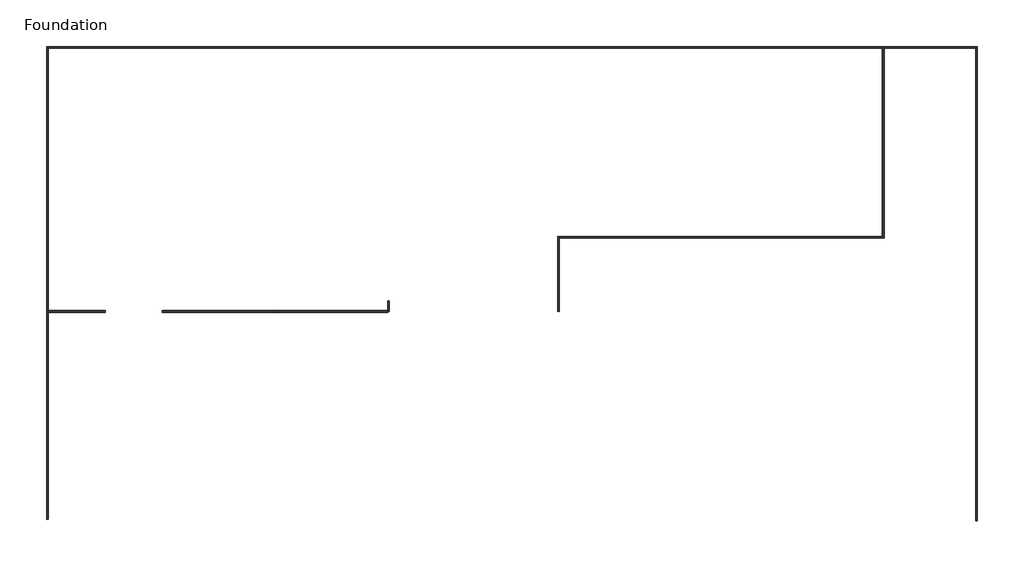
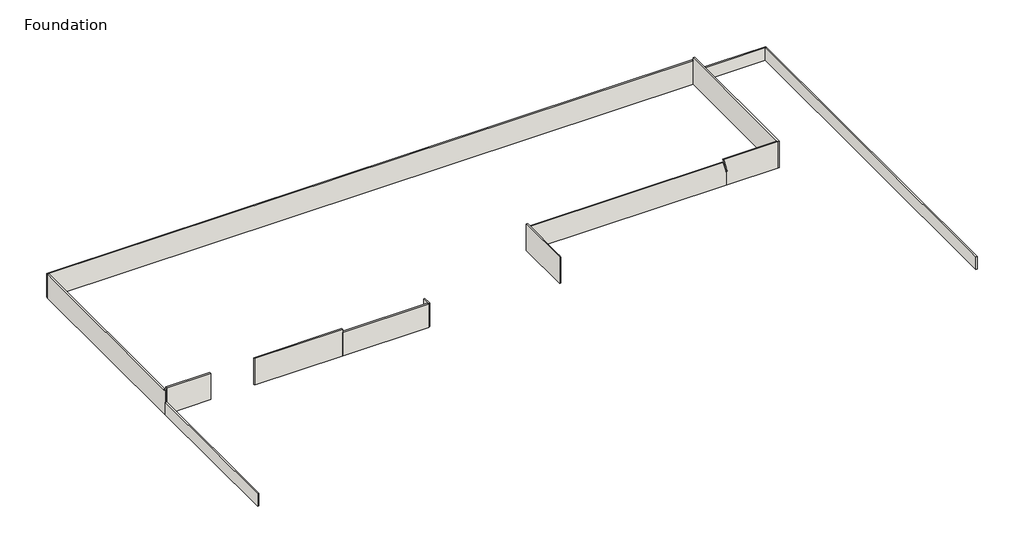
# One storey, incomplete: 13 walls.
"""IFC4 building model written with IfcOpenShell, lengths in millimetres."""

import ifcopenshell
import ifcopenshell.guid

model = None  # the IFC model being written
_history = None  # IfcOwnerHistory: only IFC2X3 demands one
_inside = {}  # id of a spatial element -> (the spatial element, [elements in it])
_under = {}  # id of a project, library or spatial element -> (it, [spatial elements below it])
_declared = {}  # id of a project -> (the project, [libraries it declares])
_typed = {}  # id of a type object -> (the type object, [elements of that type])
_made_of = {}  # id of a material, layer set ... -> (it, [elements and type objects made of it])


def new_model(schema):
    """Start an empty IFC model of exactly this schema.

    Asked for "IFC4X3", IfcOpenShell would pick the latest addendum, in which some entities
    have other attributes; the version numbers below select the first issue.
    IFC2X3 requires an IfcOwnerHistory on every rooted entity: one is made here for all.
    """
    global model, _history
    if schema == "IFC4X3":
        model = ifcopenshell.file(schema_version=(4, 3, 0, 0))
    else:
        model = ifcopenshell.file(schema=schema)
    _inside.clear()
    _under.clear()
    _declared.clear()
    _typed.clear()
    _made_of.clear()
    _history = None
    if model.schema == "IFC2X3":
        org = make("IfcOrganization", Name="unknown")
        user = make(
            "IfcPersonAndOrganization",
            ThePerson=make("IfcPerson", FamilyName="unknown"),
            TheOrganization=org,
        )
        app = make(
            "IfcApplication",
            ApplicationDeveloper=org,
            Version="unknown",
            ApplicationFullName="unknown",
            ApplicationIdentifier="unknown",
        )
        _history = make(
            "IfcOwnerHistory",
            OwningUser=user,
            OwningApplication=app,
            ChangeAction="ADDED",
            CreationDate=0,
        )
    return model


def make(cls, **values):
    """One entity of the class cls with the attributes given. An attribute that is None is left unset."""
    return model.create_entity(
        cls, **{name: value for name, value in values.items() if value is not None}
    )


def rooted(cls, **values):
    """An entity with a GlobalId (a new one), such as an element, a storey or a relation."""
    return make(cls, GlobalId=ifcopenshell.guid.new(), OwnerHistory=_history, **values)


def si_unit(unit_type, name, prefix=None):
    """IfcSIUnit, for example si_unit("LENGTHUNIT", "METRE", prefix="MILLI")."""
    return make("IfcSIUnit", UnitType=unit_type, Prefix=prefix, Name=name)


def assignment(units):
    """IfcUnitAssignment: the units of a project."""
    return None if units is None else make("IfcUnitAssignment", Units=units)


def point(xyz):
    """IfcCartesianPoint."""
    return None if xyz is None else make("IfcCartesianPoint", Coordinates=xyz)


def direction(xyz):
    """IfcDirection."""
    return None if xyz is None else make("IfcDirection", DirectionRatios=xyz)


def frame(location, z_axis=None, x_axis=None):
    """IfcAxis2Placement3D, a coordinate frame: its origin and axes. An axis left out is left unset."""
    return make(
        "IfcAxis2Placement3D",
        Location=point(location),
        Axis=direction(z_axis),
        RefDirection=direction(x_axis),
    )


def frame_2d(location, x_axis=None):
    """IfcAxis2Placement2D, a coordinate frame in the plane: its origin and x axis."""
    return make(
        "IfcAxis2Placement2D", Location=point(location), RefDirection=direction(x_axis)
    )


def origin():
    """The frame at (0, 0, 0) with its axes left unset."""
    return frame((0.0, 0.0, 0.0))


def place(relative_to, where):
    """IfcLocalPlacement: puts the frame where relative to a parent placement (None: the world)."""
    return make(
        "IfcLocalPlacement", PlacementRelTo=relative_to, RelativePlacement=where
    )


def context(
    kind, dimensions, precision=None, world=None, true_north=None, identifier=None
):
    """IfcGeometricRepresentationContext, for example the 3D "Model" context."""
    return make(
        "IfcGeometricRepresentationContext",
        ContextIdentifier=identifier,
        ContextType=kind,
        CoordinateSpaceDimension=dimensions,
        Precision=precision,
        WorldCoordinateSystem=world,
        TrueNorth=true_north,
    )


def project(units=None, contexts=None):
    """IfcProject with its units and contexts."""
    return rooted(
        "IfcProject",
        Name="project",
        RepresentationContexts=contexts,
        UnitsInContext=assignment(units),
    )


def spatial(cls, under=None, at=None, **own):
    """A site, building, storey or space (cls), placed at a placement, below another one or the project."""
    s = rooted(cls, ObjectPlacement=at, **own)
    if under is not None:
        _under.setdefault(under.id(), (under, []))[1].append(s)
    return s


def polyline(points):
    """IfcPolyline through the points."""
    return make("IfcPolyline", Points=[point(p) for p in points])


def circle_curve(where, radius):
    """IfcCircle in the frame where."""
    return make("IfcCircle", Position=where, Radius=radius)


def trimmed(basis, trim1, trim2, sense, master):
    """IfcTrimmedCurve: the piece of a basis curve between two trims."""
    return make(
        "IfcTrimmedCurve",
        BasisCurve=basis,
        Trim1=trim1,
        Trim2=trim2,
        SenseAgreement=sense,
        MasterRepresentation=master,
    )


def segment(curve, same_sense, transition):
    """IfcCompositeCurveSegment."""
    return make(
        "IfcCompositeCurveSegment",
        Transition=transition,
        SameSense=same_sense,
        ParentCurve=curve,
    )


def composite_curve(segments, self_intersect=None):
    """IfcCompositeCurve: segments joined end to end."""
    return make("IfcCompositeCurve", Segments=segments, SelfIntersect=self_intersect)


def outline(outer, holes=None, kind="AREA"):
    """IfcArbitraryClosedProfileDef: a profile drawn as a closed curve; with holes, ...WithVoids."""
    if holes is None:
        return make("IfcArbitraryClosedProfileDef", ProfileType=kind, OuterCurve=outer)
    return make(
        "IfcArbitraryProfileDefWithVoids",
        ProfileType=kind,
        OuterCurve=outer,
        InnerCurves=holes,
    )


def extrude(swept, where, along, depth):
    """IfcExtrudedAreaSolid: the profile swept, set in the frame where, extruded along a direction by depth."""
    return make(
        "IfcExtrudedAreaSolid",
        SweptArea=swept,
        Position=where,
        ExtrudedDirection=direction(along),
        Depth=depth,
    )


def faces_of(points, faces, orient=None, outer=None):
    """IfcFace entities. A face is a list of loops; a loop is a list of indices into points, from 0.

    orient and outer hold one flag for each loop. By default every Orientation is true, the
    first loop of a face is its IfcFaceOuterBound and the others are IfcFaceBound.
    """
    made = []
    for i, loops in enumerate(faces):
        bounds = []
        for j, loop in enumerate(loops):
            is_outer = j == 0 if outer is None else outer[i][j]
            bounds.append(
                make(
                    "IfcFaceOuterBound" if is_outer else "IfcFaceBound",
                    Bound=make("IfcPolyLoop", Polygon=[points[k] for k in loop]),
                    Orientation=True if orient is None else orient[i][j],
                )
            )
        made.append(make("IfcFace", Bounds=bounds))
    return made


def faceted_brep(points, faces, orient=None, outer=None, voids=None):
    """IfcFacetedBrep: a solid bounded by flat faces; with voids (closed shells), ...WithVoids."""
    shared = [point(p) for p in points]
    hull = make("IfcClosedShell", CfsFaces=faces_of(shared, faces, orient, outer))
    if voids is None:
        return make("IfcFacetedBrep", Outer=hull)
    return make(
        "IfcFacetedBrepWithVoids",
        Outer=hull,
        Voids=[
            make(cls, CfsFaces=faces_of(shared, fs, o, b)) for cls, fs, o, b in voids
        ],
    )


def shape(context_of_items, identifier, shape_type, items):
    """IfcShapeRepresentation: the items that make up one representation, for example the "Body"."""
    return make(
        "IfcShapeRepresentation",
        ContextOfItems=context_of_items,
        RepresentationIdentifier=identifier,
        RepresentationType=shape_type,
        Items=items,
    )


def made_of(thing, what):
    """Note that an element or type object is made of a material, layer set ...; save() writes the relation."""
    if what is not None:
        _made_of.setdefault(what.id(), (what, []))[1].append(thing)
    return thing


def element(
    cls,
    number,
    at=None,
    inside=None,
    cuts=None,
    type_object=None,
    material=None,
    context=None,
    identifier="Body",
    shape_type=None,
    held_by="IfcProductDefinitionShape",
    body=None,
    shapes=None,
    **own,
):
    """One element of the class cls, such as IfcWall. Its Tag is "e" and its number.

    at: its placement. inside: the storey or other place that contains it. cuts: it is an
    opening in that element (IfcRelVoidsElement). A single representation is given by context,
    identifier, shape_type and body (its items); several are given by shapes. held_by: the class
    of the entity that holds the representations. save() writes the other relations.
    """
    e = rooted(cls, Tag="e%d" % number, ObjectPlacement=at, **own)
    if body is not None:
        shapes = [shape(context, identifier, shape_type, body)]
    if shapes is not None:
        e.Representation = make(held_by, Representations=shapes)
    if inside is not None:
        _inside.setdefault(inside.id(), (inside, []))[1].append(e)
    if cuts is not None:
        rooted(
            "IfcRelVoidsElement", RelatingBuildingElement=cuts, RelatedOpeningElement=e
        )
    if type_object is not None:
        _typed.setdefault(type_object.id(), (type_object, []))[1].append(e)
    return made_of(e, material)


def aggregate(whole, parts):
    """IfcRelAggregates: a whole, such as a stair, and the parts it consists of."""
    return rooted("IfcRelAggregates", RelatingObject=whole, RelatedObjects=parts)


def save(model, path):
    """Write the relations noted so far, then the file.

    IfcRelAggregates (storeys below a building ...), IfcRelContainedInSpatialStructure (elements
    in a storey), IfcRelDefinesByType, IfcRelAssociatesMaterial and IfcRelDeclares: one each for
    every whole, place, type object, material and project.
    """
    for whole, parts in _under.values():
        aggregate(whole, parts)
    for where, things in _inside.values():
        rooted(
            "IfcRelContainedInSpatialStructure",
            RelatedElements=things,
            RelatingStructure=where,
        )
    for kind, things in _typed.values():
        rooted("IfcRelDefinesByType", RelatedObjects=things, RelatingType=kind)
    for what, things in _made_of.values():
        rooted("IfcRelAssociatesMaterial", RelatedObjects=things, RelatingMaterial=what)
    for by, libraries in _declared.values():
        rooted("IfcRelDeclares", RelatingContext=by, RelatedDefinitions=libraries)
    model.write(path)


model = new_model("IFC4")

# Units and contexts
model_context = context("Model", 3, world=origin())
ifc_project = project(units=[si_unit("LENGTHUNIT", "METRE", prefix="MILLI")], contexts=[model_context])

# Site, building, storey
site = spatial("IfcSite", under=ifc_project)
building = spatial("IfcBuilding", under=site)
storey = spatial("IfcBuildingStorey", under=building, Name="Foundation", Elevation=-5638.8)

# Walls
placement = place(None, origin())
element("IfcWall", 1, ObjectType="Generic - 12\"", at=placement, inside=storey, context=model_context, shape_type="Brep", body=[
    faceted_brep([(-62171.2307976, 61556.111889, -5638.8), (-61866.4307976, 61556.111889, -5638.8), (71940.7692024, 61556.111889, -5638.8), (72245.5692024, 61556.111889, -5638.8), (72245.5692024, 61556.111889, -2895.6), (72245.5692024, 61556.111889, -457.2), (71940.7692024, 61556.111889, -457.2), (-61866.4307976, 61556.111889, -457.2), (-62171.2307976, 61556.111889, -457.2), (-62171.2307976, 61860.911889, -5638.8), (-62171.2307976, 61860.911889, -457.2), (71940.7692024, 61860.911889, -457.2), (72245.5692024, 61860.911889, -457.2), (72245.5692024, 61860.911889, -2895.6), (72245.5692024, 61860.911889, -5638.8)], [[[0, 1, 2, 3, 4, 5, 6, 7, 8]], [[9, 10, 11, 12, 13, 14]], [[3, 2, 1, 0, 9, 14]], [[5, 4, 3, 14, 13, 12]], [[0, 8, 10, 9]], [[6, 5, 12, 11]], [[8, 7, 6, 11, 10]]]),
])
element("IfcWall", 2, ObjectType="Generic - 12\"", at=placement, inside=storey, context=model_context, shape_type="Brep", body=[
    faceted_brep([(71940.7692024, 61556.111889, -5638.8), (71940.7692024, 31380.911889, -5638.8), (71940.7692024, 31076.111889, -5638.8), (71940.7692024, 31076.111889, 152.4), (71940.7692024, 31380.911889, 152.4), (71940.7692024, 61556.111889, 152.4), (72245.5692024, 61556.111889, -5638.8), (72245.5692024, 61556.111889, -457.2), (72245.5692024, 61556.111889, 152.4), (72245.5692024, 31076.111889, 152.4), (72245.5692024, 31076.111889, -5638.8)], [[[0, 1, 2, 3, 4, 5]], [[6, 7, 8, 9, 10]], [[2, 1, 0, 6, 10]], [[5, 4, 3, 9, 8]], [[3, 2, 10, 9]], [[0, 5, 8, 7, 6]]]),
])
element("IfcWall", 3, ObjectType="Generic - 12\"", at=placement, inside=storey, context=model_context, shape_type="Brep", body=[
    faceted_brep([(-62171.2307976, 61556.111889, -5638.8), (-62171.2307976, 19188.911889, -5638.8), (-62171.2307976, 19188.911889, -2895.6), (-62171.2307976, 19188.911889, -152.4), (-62171.2307976, 19493.711889, -152.4), (-62171.2307976, 19493.711889, -457.2), (-62171.2307976, 61556.111889, -457.2), (-61866.4307976, 61556.111889, -5638.8), (-61866.4307976, 61556.111889, -457.2), (-61866.4307976, 19493.711889, -457.2), (-61866.4307976, 19493.711889, -152.4), (-61866.4307976, 19188.911889, -152.4), (-61866.4307976, 19188.911889, -2895.6), (-61866.4307976, 19188.911889, -5638.8), (-61866.4307976, 19493.711889, -5638.8)], [[[0, 1, 2, 3, 4, 5, 6]], [[7, 8, 9, 10, 11, 12, 13, 14]], [[1, 0, 7, 14, 13]], [[3, 2, 1, 13, 12, 11]], [[0, 6, 8, 7]], [[4, 3, 11, 10]], [[4, 10, 9, 5]], [[6, 5, 9, 8]]]),
])
element("IfcWall", 4, ObjectType="Generic - 12\"", at=placement, inside=storey, context=model_context, shape_type="Brep", body=[
    faceted_brep([(-52722.4307976, 19493.711889, -5638.8), (-61866.4307976, 19493.711889, -5638.8), (-61866.4307976, 19493.711889, -457.2), (-61866.4307976, 19493.711889, -152.4), (-61866.4307976, 19493.711889, 152.4), (-53027.2307976, 19493.711889, 152.4), (-52722.4307976, 19493.711889, 152.4), (-52722.4307976, 19493.711889, -152.4), (-52722.4307976, 19188.911889, -5638.8), (-52722.4307976, 19188.911889, -2590.8), (-52722.4307976, 19188.911889, 152.4), (-61866.4307976, 19188.911889, 152.4), (-61866.4307976, 19188.911889, -152.4), (-61866.4307976, 19188.911889, -5638.8)], [[[0, 1, 2, 3, 4, 5, 6, 7]], [[8, 9, 10, 11, 12, 13]], [[1, 0, 8, 13]], [[6, 5, 4, 11, 10]], [[0, 7, 6, 10, 9, 8]], [[4, 3, 2, 1, 13, 12, 11]]]),
])
element("IfcWall", 5, ObjectType="Generic - 12\"", at=placement, inside=storey, context=model_context, shape_type="Brep", body=[
    faceted_brep([(-43578.4307976, 19188.911889, -5638.8), (-25290.4307976, 19188.911889, -5638.8), (-25290.4307976, 19188.911889, -2590.8), (-25290.4307976, 19188.911889, -457.2), (-25290.4307976, 19188.911889, 152.4), (-25595.2307976, 19188.911889, 152.4), (-43578.4307976, 19188.911889, 152.4), (-43578.4307976, 19493.711889, -5638.8), (-43578.4307976, 19493.711889, -2590.8), (-43578.4307976, 19493.711889, 152.4), (-25290.4307976, 19493.711889, 152.4), (-25290.4307976, 19493.711889, -457.2), (-25290.4307976, 19493.711889, -5638.8)], [[[0, 1, 2, 3, 4, 5, 6]], [[7, 8, 9, 10, 11, 12]], [[1, 0, 7, 12]], [[6, 5, 4, 10, 9]], [[4, 3, 2, 1, 12, 11, 10]], [[0, 6, 9, 8, 7]]]),
])
element("IfcWall", 6, ObjectType="Generic - 12\"", at=placement, inside=storey, context=model_context, shape_type="SweptSolid", body=[
    extrude(outline(polyline([(-61866.4307976, 19188.911889), (-61866.4307976, -14034.288111), (-62171.2307976, -14034.288111), (-62171.2307976, 19188.911889), (-61866.4307976, 19188.911889)])), frame((0.0, 0.0, -5638.8), z_axis=(0.0, 0.0, 1.0), x_axis=(1.0, 0.0, 0.0)), (0.0, 0.0, 1.0), 2743.2),
])
element("IfcWall", 7, ObjectType="Generic - 12\"", at=placement, inside=storey, context=model_context, shape_type="Brep", body=[
    faceted_brep([(87180.7692024, -14339.088111, -5638.8), (87180.7692024, 61556.111889, -5638.8), (87180.7692024, 61556.111889, -2895.6), (87180.7692024, -14339.088111, -2895.6), (86875.9692024, -14339.088111, -5638.8), (86875.9692024, -14339.088111, -2895.6), (86875.9692024, -14034.288111, -2895.6), (86875.9692024, 61556.111889, -2895.6), (86875.9692024, 61556.111889, -5638.8), (86875.9692024, -14034.288111, -5638.8)], [[[0, 1, 2, 3]], [[4, 5, 6, 7, 8, 9]], [[1, 0, 4, 9, 8]], [[0, 3, 5, 4]], [[2, 1, 8, 7]], [[3, 2, 7, 6, 5]]]),
])
element("IfcWall", 8, ObjectType="Generic - 12\"", at=placement, inside=storey, context=model_context, shape_type="SweptSolid", body=[
    extrude(outline(composite_curve([segment(polyline([(-7458.788783, 19188.911889), (-25290.4307976, 19188.911889), (-25290.4307976, 19493.711889), (-7459.6307976, 19493.711889), (-7459.6307976, 19341.311889)]), True, "CONTINUOUS"), segment(trimmed(circle_curve(frame_2d((6332.5692024, 19341.311889)), 13792.2), [point((-7459.6307976, 19341.311889))], [point((-7458.788783, 19188.911889))], True, "CARTESIAN"), True, "CONTINUOUS")], self_intersect=False)), frame((0.0, 0.0, -5638.8), z_axis=(0.0, 0.0, 1.0), x_axis=(1.0, 0.0, 0.0)), (0.0, 0.0, 1.0), 5181.6),
])
element("IfcWall", 9, ObjectType="Generic - 12\"", at=placement, inside=storey, context=model_context, shape_type="Brep", body=[
    faceted_brep([(-7154.8307976, 19341.311889, -5638.8), (-7154.8307976, 21017.711889, -5638.8), (-7154.8307976, 21017.711889, -457.2), (-7154.8307976, 19341.311889, -457.2), (-7459.6307976, 19341.311889, -5638.8), (-7459.6307976, 19341.311889, -457.2), (-7459.6307976, 19493.711889, -457.2), (-7459.6307976, 21017.711889, -457.2), (-7459.6307976, 21017.711889, -5638.8), (-7459.6307976, 19493.711889, -5638.8)], [[[0, 1, 2, 3]], [[4, 5, 6, 7, 8, 9]], [[1, 0, 4, 9, 8]], [[2, 1, 8, 7]], [[0, 3, 5, 4]], [[3, 2, 7, 6, 5]]]),
])
element("IfcWall", 10, ObjectType="Generic - 12\"", at=placement, inside=storey, context=model_context, shape_type="SweptSolid", body=[
    extrude(outline(polyline([(-5638.8, 61272.7692024), (-2590.8, 61272.7692024), (-2590.8, 61114.9931125), (-457.2, 60543.2967155), (-457.2, 20124.7692024), (-5638.8, 20124.7692024), (-5638.8, 61272.7692024)])), frame((0.0, 31076.111889, 0.0), z_axis=(0.0, 1.0, 0.0), x_axis=(0.0, 0.0, 1.0)), (0.0, 0.0, 1.0), 304.8),
])
element("IfcWall", 11, ObjectType="Generic - 12\"", at=placement, inside=storey, context=model_context, shape_type="Brep", body=[
    faceted_brep([(87180.7692024, 61860.911889, -5638.8), (72245.5692024, 61860.911889, -5638.8), (72245.5692024, 61860.911889, -2895.6), (87180.7692024, 61860.911889, -2895.6), (87180.7692024, 61556.111889, -5638.8), (87180.7692024, 61556.111889, -2895.6), (86875.9692024, 61556.111889, -2895.6), (72245.5692024, 61556.111889, -2895.6), (72245.5692024, 61556.111889, -5638.8), (86875.9692024, 61556.111889, -5638.8)], [[[0, 1, 2, 3]], [[4, 5, 6, 7, 8, 9]], [[1, 0, 4, 9, 8]], [[0, 3, 5, 4]], [[2, 1, 8, 7]], [[3, 2, 7, 6, 5]]]),
])
element("IfcWall", 12, ObjectType="a_panel enamel", at=placement, inside=storey, context=model_context, shape_type="SweptSolid", body=[
    extrude(outline(polyline([(-5638.8, 71940.7692024), (152.4, 71940.7692024), (152.4, 60695.5070676), (-2590.8, 61430.5452923), (-2590.8, 61272.7692024), (-5638.8, 61272.7692024), (-5638.8, 71940.7692024)])), frame((0.0, 31076.111889, 0.0), z_axis=(0.0, 1.0, 0.0), x_axis=(0.0, 0.0, 1.0)), (0.0, 0.0, 1.0), 304.8),
])
element("IfcWall", 13, ObjectType="a_panel enamel", at=placement, inside=storey, context=model_context, shape_type="Brep", body=[
    faceted_brep([(19819.9692024, 31380.911889, -5638.8), (19819.9692024, 19341.311889, -5638.8), (19819.9692024, 19341.311889, 152.4), (19819.9692024, 31380.911889, 152.4), (20124.7692024, 31380.911889, -5638.8), (20124.7692024, 31380.911889, -457.2), (20124.7692024, 31380.911889, 152.4), (20124.7692024, 20234.1262036, 152.4), (20124.7692024, 19918.5740238, 152.4), (20124.7692024, 19341.311889, 152.4), (20124.7692024, 19341.311889, -5638.8), (20124.7692024, 31076.111889, -5638.8)], [[[0, 1, 2, 3]], [[4, 5, 6, 7, 8, 9, 10, 11]], [[1, 0, 4, 11, 10]], [[2, 1, 10, 9]], [[3, 2, 9, 8, 7, 6]], [[0, 3, 6, 5, 4]]]),
])

save(model, "model.ifc")
